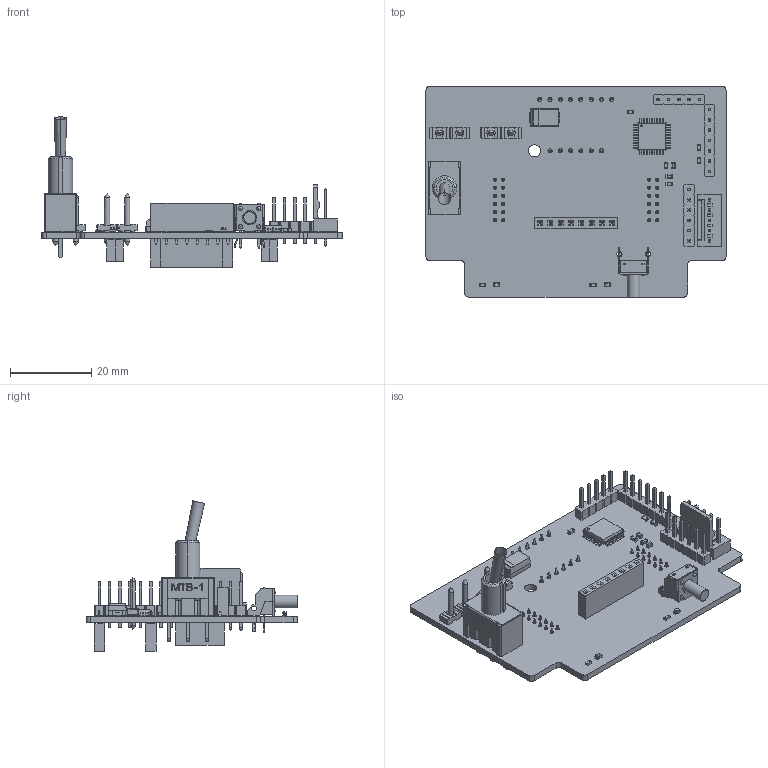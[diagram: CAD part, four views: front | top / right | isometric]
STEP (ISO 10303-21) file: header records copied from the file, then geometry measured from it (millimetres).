
FILE_DESCRIPTION(('KiCad electronic assembly'),'2;1');
FILE_NAME('kidbot_rev11.step','2021-02-01T11:17:36',('An Author'),( 'A Company'),'Open CASCADE STEP processor 6.9', 'KiCad to STEP converter','Unknown');
FILE_SCHEMA(('AUTOMOTIVE_DESIGN { 1 0 10303 214 1 1 1 1 }'));
Length unit declared in the file: millimetre
Products named in the file (36): Open CASCADE STEP translator 6.9 1; LQFP-32_7x7mm_P0.8mm; SOLID; PinSocket_1x08_P2.54mm_Vertical; PinSocket_1x06_P2.54mm_Vertical; C_0603_1608Metric; PinSocket_1x06_P2.00mm_Vertical; R_0603_1608Metric; CP_EIA-7343-31_Kemet-D; SMD_0603LED_RED; PinHeader_1x06_P2.54mm_Vertical; SW_Tactile_SPST_Angled_PTS645Vx83-2LFS; MTS-10x-A2; COMPOUND; L_0603_1608Metric; Molex_KK-254_AE-6410-05A_1x05_P2.54mm_Vertical; PinHeader_1x07_P2.54mm_Vertical; SMD_0603LED_GREEN; DG332J-5.0-02P-13-00A; PinHeader_1x05_P2.54mm_Vertical
Assembly tree (46 placements, depth 3):
  Open CASCADE STEP translator 6.9 1
    LQFP-32_7x7mm_P0.8mm
      SOLID
    PinSocket_1x08_P2.54mm_Vertical  x2
      SOLID
    PinSocket_1x06_P2.54mm_Vertical
      SOLID
    C_0603_1608Metric  x5
      SOLID
    PinSocket_1x06_P2.00mm_Vertical  x4
      SOLID
    R_0603_1608Metric  x3
      SOLID
    CP_EIA-7343-31_Kemet-D
      SOLID
    SMD_0603LED_RED
      SOLID
    PinHeader_1x06_P2.54mm_Vertical
      SOLID
    SW_Tactile_SPST_Angled_PTS645Vx83-2LFS
      SOLID
    MTS-10x-A2
      COMPOUND
    L_0603_1608Metric
      SOLID
    Molex_KK-254_AE-6410-05A_1x05_P2.54mm_Vertical
      SOLID
    PinHeader_1x07_P2.54mm_Vertical
      SOLID
    SMD_0603LED_GREEN
      SOLID
    DG332J-5.0-02P-13-00A  x2
      COMPOUND
    PinHeader_1x05_P2.54mm_Vertical
      SOLID
    COMPOUND
Bounding box: 74 x 52.1 x 37.04 mm (x, y, z)
Volume: 9887.5 mm3; surface area: 15125.6 mm2
Topology: 34 solids, 34 shells, 3816 faces, 9912 edges, 6405 vertices
Faces by surface type: plane 3154, cylinder 464, bspline 169, revolution 16, sphere 4, cone 4, extrusion 4, torus 1
Full cylindrical faces by diameter (mm): 0.5 x1, 0.8 x28, 0.99 x2, 1 x22, 1.016 x22, 1.19 x5, 1.2 x2, 1.3 x2, 1.5 x4, 2.2 x3, 3 x1, 3.14 x1, 3.5 x1
Entity records: 195224 total; most frequent: CARTESIAN_POINT 38436, DIRECTION 25639, VECTOR 18442, LINE 18440, ORIENTED_EDGE 14024, PCURVE 14024, DEFINITIONAL_REPRESENTATION 14024, EDGE_CURVE 7012
